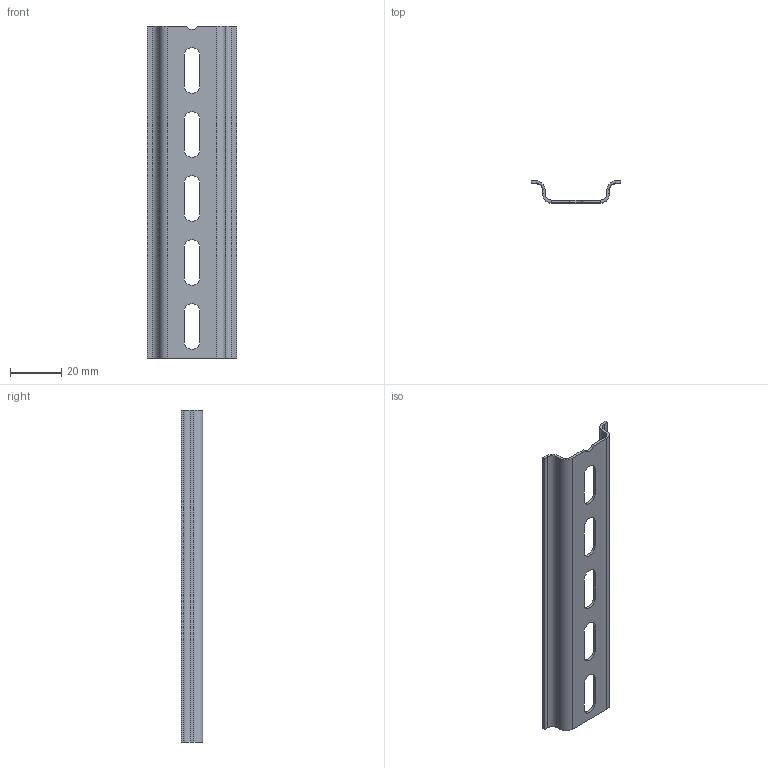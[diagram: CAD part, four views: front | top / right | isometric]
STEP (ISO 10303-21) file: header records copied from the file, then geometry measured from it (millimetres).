
FILE_DESCRIPTION (( 'STEP AP214' ), '1' );
FILE_NAME ('DIN-ðåéêà 130ìì õ 0,1 ìì.STEP', '2025-10-22T11:42:20', ( '' ), ( '' ), 'SwSTEP 2.0', 'SolidWorks 2018', '' );
FILE_SCHEMA (( 'AUTOMOTIVE_DESIGN' ));
Length unit declared in the file: millimetre
Products named in the file (1): DIN-ðåéêà 130ìì õ 0,1 ìì
Bounding box: 35.2 x 8.5 x 130 mm (x, y, z)
Volume: 5341.8 mm3; surface area: 11248.7 mm2
Topology: 1 solids, 1 shells, 65 faces, 157 edges, 94 vertices
Faces by surface type: plane 41, cylinder 24
Entity records: 1917 total; most frequent: DIRECTION 337, CARTESIAN_POINT 317, ORIENTED_EDGE 314, EDGE_CURVE 157, AXIS2_PLACEMENT_3D 114, VECTOR 109, LINE 109, VERTEX_POINT 94
